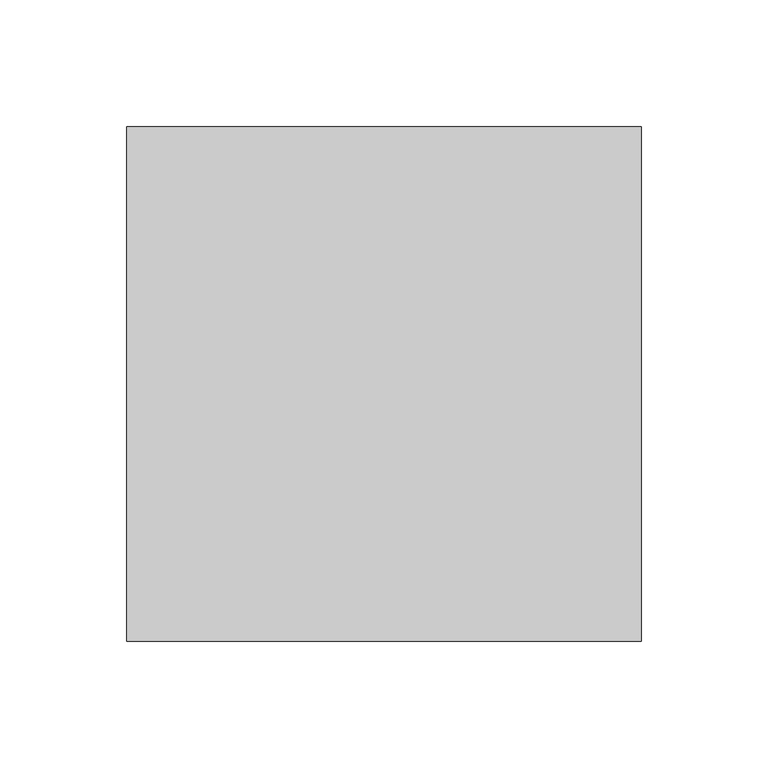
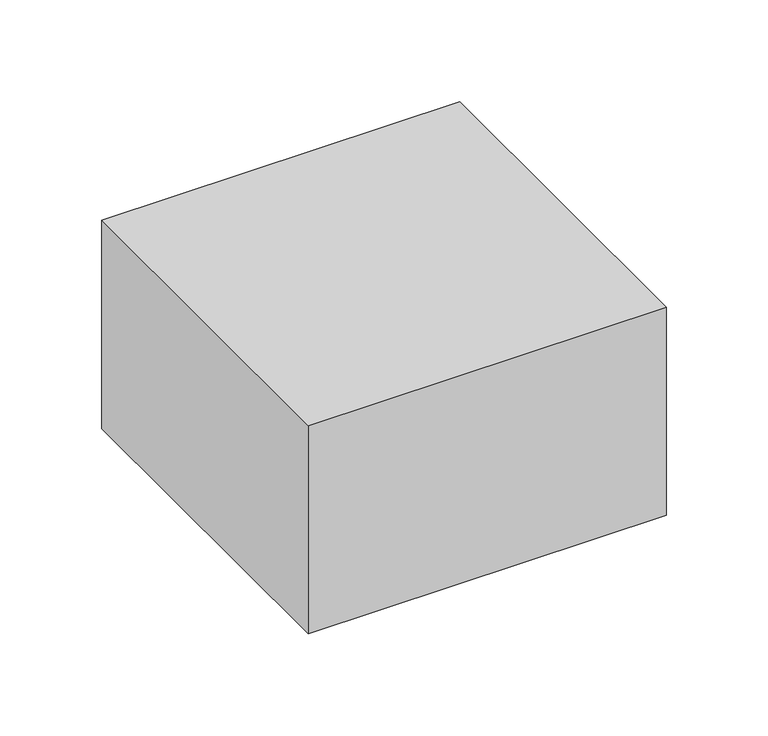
"""IFC4 building model written with IfcOpenShell, lengths in millimetres: proxy geometry, Placeholder_Polyseam : Placeholder_Polyseam."""

from ifc_helpers import new_model, si_unit, origin, origin_with_axes, place, context, project, spatial, polyline, outline, extrude, source, transform, mapped, element, save


def generic_models_bec805c1(model_context):
    return source(origin(), model_context, "Body", "SweptSolid", [
        extrude(outline(polyline([(-101.6, 101.6), (101.6, 101.6), (101.6, -101.6), (-101.6, -101.6), (-101.6, 101.6)])), origin_with_axes(), (0.0, 0.0, 1.0), 125.0),
    ])


if __name__ == "__main__":
    model = new_model("IFC4")
    model_context = context("Model", 3, world=origin())
    ifc_project = project(units=[si_unit("LENGTHUNIT", "METRE", prefix="MILLI")], contexts=[model_context])
    site = spatial("IfcSite", under=ifc_project)
    building = spatial("IfcBuilding", under=site)
    placement = place(None, origin())
    generic_models_shape = generic_models_bec805c1(model_context)
    element("IfcBuildingElementProxy", 1, Name="Placeholder_Polyseam : Placeholder_Polyseam", ObjectType="Placeholder_Polyseam : Placeholder_Polyseam", at=placement, inside=building, context=model_context, shape_type="MappedRepresentation", body=[
        mapped(generic_models_shape, transform((0.0, 0.0, 0.0), x_axis=(1.0, 0.0, 0.0), y_axis=(0.0, 1.0, 0.0), z_axis=(0.0, 0.0, 1.0))),
    ])
    save(model, "model.ifc")
